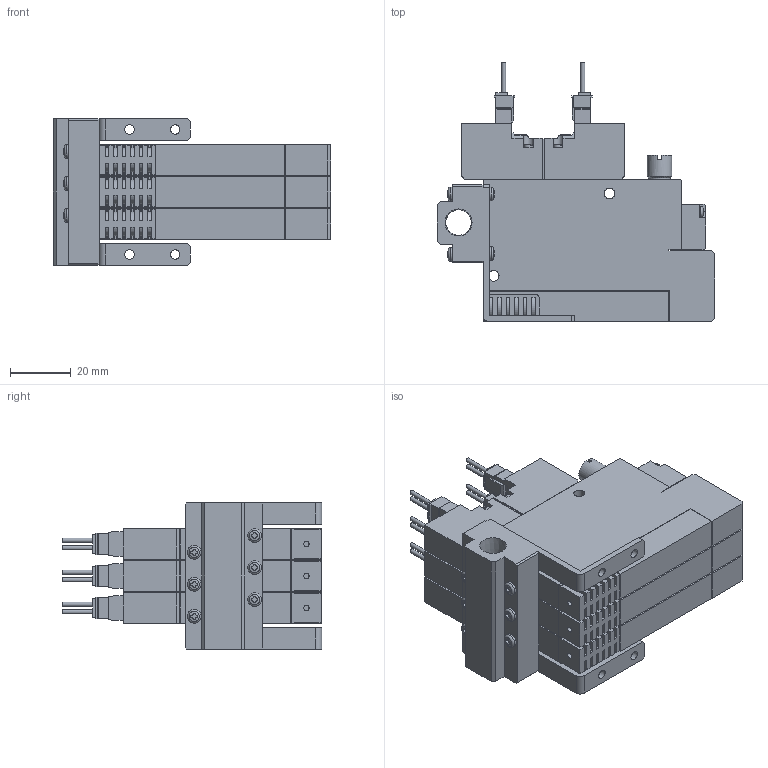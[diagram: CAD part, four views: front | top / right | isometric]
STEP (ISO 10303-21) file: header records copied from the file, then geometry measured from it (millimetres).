
FILE_DESCRIPTION(('STEP AP203'),'1');
FILE_NAME('5SS303_3D.stp','2024-09-04T09:41:24',(' '),(' '),'Spatial InterOp 3D',' ',' ');
FILE_SCHEMA(('CONFIG_CONTROL_DESIGN'));
Length unit declared in the file: millimetre
Products named in the file (5): BSC1M※※ZZ※5SS303; Solenoid valve S; Pressure Sensor ZZ; Unit-S; BaseMS30R
Assembly tree (10 placements, depth 2):
  BSC1M※※ZZ※5SS303
    Solenoid valve S  x3
    Pressure Sensor ZZ  x3
    Unit-S  x3
    BaseMS30R
Bounding box: 91 x 85.05 x 48 mm (x, y, z)
Volume: 136563.1 mm3; surface area: 57521.7 mm2
Topology: 10 solids, 10 shells, 1400 faces, 3834 edges, 2542 vertices
Faces by surface type: plane 1024, cylinder 327, cone 17, sphere 16, torus 16
Full cylindrical faces by diameter (mm): 1.4 x12, 1.8 x3, 2.5 x6, 3 x16, 3.5 x18, 4 x3, 4.134 x6, 4.5 x10, 5.5 x3, 7 x3, 7.7 x3, 8 x3, 8.422 x1
Entity records: 18980 total; most frequent: CARTESIAN_POINT 4064, ORIENTED_EDGE 2990, DIRECTION 2960, EDGE_CURVE 1495, LINE 1086, VECTOR 1086, VERTEX_POINT 1031, AXIS2_PLACEMENT_3D 937
